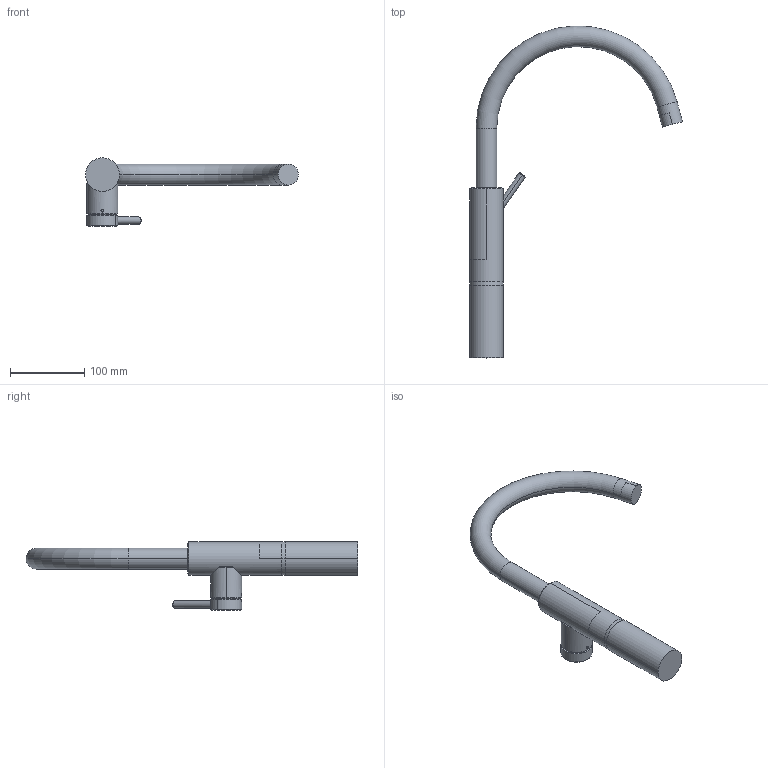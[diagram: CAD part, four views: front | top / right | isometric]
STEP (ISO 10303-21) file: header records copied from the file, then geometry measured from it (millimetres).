
FILE_DESCRIPTION((''),'2;1');
FILE_NAME('SWIVIEL_SPOUT_SW0001','2023-09-18T09:16:39',('YY993'),(''),'CREO PARAMETRIC BY PTC INC, 2022244','CREO PARAMETRIC BY PTC INC, 2022244','');
FILE_SCHEMA(('CONFIG_CONTROL_DESIGN'));
Length unit declared in the file: millimetre
Products named in the file (1): SWIVIEL_SPOUT_SW0001
Bounding box: 287.3 x 448.1 x 92.3 mm (x, y, z)
Volume: 728756.3 mm3; surface area: 87824.8 mm2
Topology: 1 solids, 1 shells, 68 faces, 169 edges, 108 vertices
Faces by surface type: cylinder 27, cone 12, plane 11, bspline 10, torus 8
Entity records: 4530 total; most frequent: CARTESIAN_POINT 2948, ORIENTED_EDGE 338, DIRECTION 301, EDGE_CURVE 169, AXIS2_PLACEMENT_3D 128, VERTEX_POINT 108, EDGE_LOOP 73, CIRCLE 70
